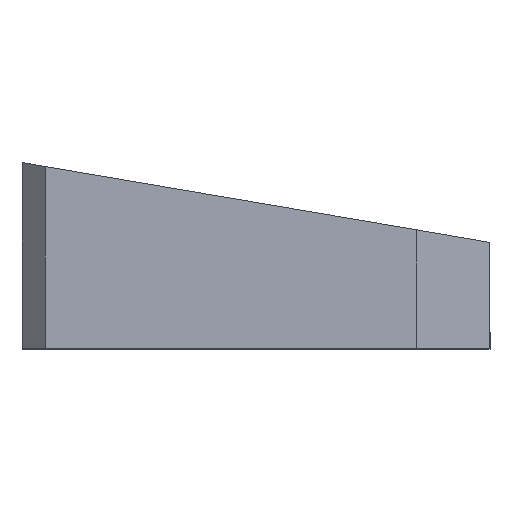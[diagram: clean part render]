
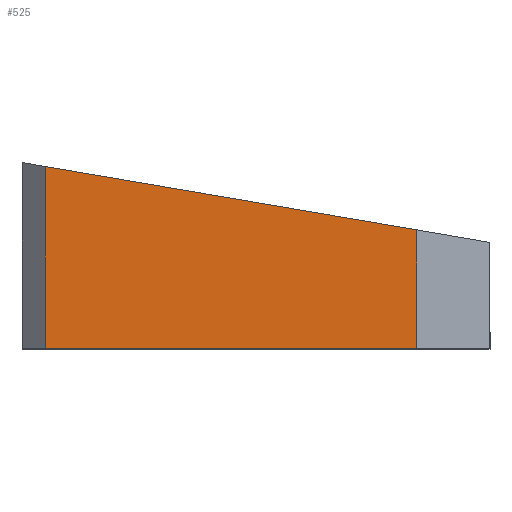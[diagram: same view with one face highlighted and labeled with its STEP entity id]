
A CAD part, top view. The second image highlights one B-rep face of the part: STEP entity #525.
In plain terms, the highlighted planar face has unit normal (0, 0, 1).
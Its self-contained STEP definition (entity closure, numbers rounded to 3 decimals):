
#34 = VECTOR ( 'NONE', #2104, 1000. ) ;
#52 = CARTESIAN_POINT ( 'NONE',  ( 28., 0., 33.5 ) ) ;
#217 = LINE ( 'NONE', #275, #1093 ) ;
#219 = CARTESIAN_POINT ( 'NONE',  ( 28., 8.936, 33.5 ) ) ;
#275 = CARTESIAN_POINT ( 'NONE',  ( 28., 7., 33.5 ) ) ;
#293 = CARTESIAN_POINT ( 'NONE',  ( 0., 13.702, 33.5 ) ) ;
#424 = VERTEX_POINT ( 'NONE', #1053 ) ;
#487 = LINE ( 'NONE', #52, #890 ) ;
#525 = ADVANCED_FACE ( 'NONE', ( #1635 ), #760, .F. ) ;
#580 = DIRECTION ( 'NONE',  ( 0., -1., 0. ) ) ;
#595 = LINE ( 'NONE', #1902, #34 ) ;
#643 = EDGE_CURVE ( 'NONE', #1893, #1987, #217, .T. ) ;
#653 = VECTOR ( 'NONE', #580, 1000. ) ;
#728 = LINE ( 'NONE', #1122, #653 ) ;
#738 = DIRECTION ( 'NONE',  ( 1., 0., 0. ) ) ;
#760 = PLANE ( 'NONE',  #1163 ) ;
#791 = DIRECTION ( 'NONE',  ( 0., -1., 0. ) ) ;
#833 = ORIENTED_EDGE ( 'NONE', *, *, #643, .F. ) ;
#890 = VECTOR ( 'NONE', #738, 1000. ) ;
#894 = CARTESIAN_POINT ( 'NONE',  ( 28., 0., 33.5 ) ) ;
#925 = ORIENTED_EDGE ( 'NONE', *, *, #1009, .T. ) ;
#967 = ORIENTED_EDGE ( 'NONE', *, *, #1189, .F. ) ;
#1009 = EDGE_CURVE ( 'NONE', #424, #1987, #487, .T. ) ;
#1053 = CARTESIAN_POINT ( 'NONE',  ( 0., 0., 33.5 ) ) ;
#1093 = VECTOR ( 'NONE', #791, 1000. ) ;
#1100 = ORIENTED_EDGE ( 'NONE', *, *, #1142, .T. ) ;
#1122 = CARTESIAN_POINT ( 'NONE',  ( 0., 7., 33.5 ) ) ;
#1142 = EDGE_CURVE ( 'NONE', #1727, #424, #728, .T. ) ;
#1163 = AXIS2_PLACEMENT_3D ( 'NONE', #1590, #1862, #1431 ) ;
#1189 = EDGE_CURVE ( 'NONE', #1727, #1893, #595, .T. ) ;
#1431 = DIRECTION ( 'NONE',  ( -1., 0., 0. ) ) ;
#1590 = CARTESIAN_POINT ( 'NONE',  ( 28., 7., 33.5 ) ) ;
#1635 = FACE_OUTER_BOUND ( 'NONE', #2068, .T. ) ;
#1727 = VERTEX_POINT ( 'NONE', #293 ) ;
#1862 = DIRECTION ( 'NONE',  ( 0., 0., -1. ) ) ;
#1893 = VERTEX_POINT ( 'NONE', #219 ) ;
#1902 = CARTESIAN_POINT ( 'NONE',  ( -1.75, 14., 33.5 ) ) ;
#1987 = VERTEX_POINT ( 'NONE', #894 ) ;
#2068 = EDGE_LOOP ( 'NONE', ( #833, #967, #1100, #925 ) ) ;
#2104 = DIRECTION ( 'NONE',  ( 0.986, -0.168, 0. ) ) ;
